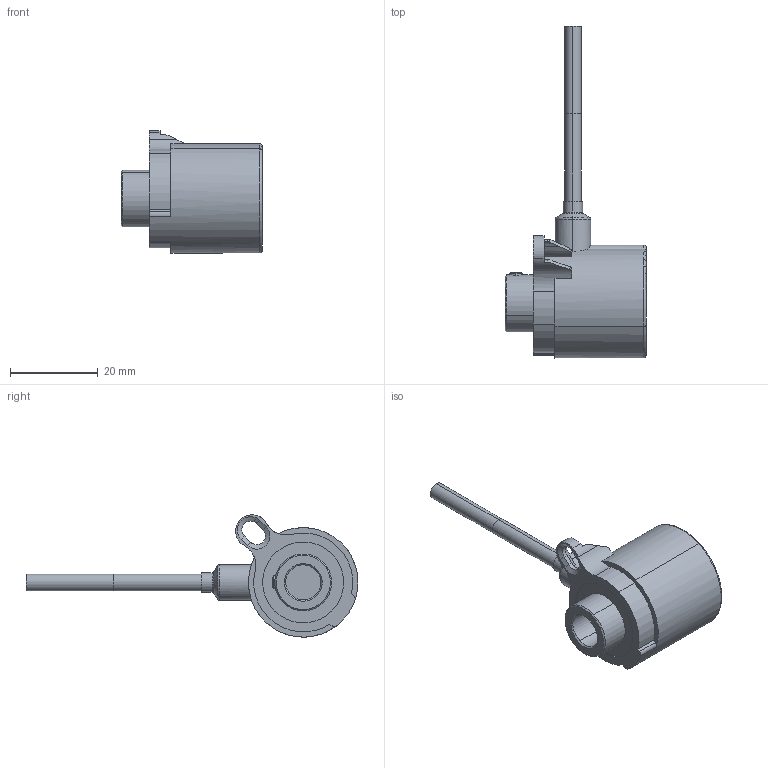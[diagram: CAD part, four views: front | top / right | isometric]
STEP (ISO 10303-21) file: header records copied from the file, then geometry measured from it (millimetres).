
FILE_DESCRIPTION (( 'STEP AP214' ), '1' );
FILE_NAME ('Zusammenstellung_AH25S.STEP', '2014-09-16T11:16:52', ( '' ), ( '' ), 'SwSTEP 2.0', 'SolidWorks 2013', '' );
FILE_SCHEMA (( 'AUTOMOTIVE_DESIGN' ));
Length unit declared in the file: millimetre
Products named in the file (3): SIKO_AH25S_003~0; SIKO_AH25S_001~0; Zusammenstellung_AH25S
Assembly tree (2 placements, depth 2):
  Zusammenstellung_AH25S
    SIKO_AH25S_001~0
    SIKO_AH25S_003~0
Bounding box: 32.4 x 75.8 x 27.9 mm (x, y, z)
Volume: 13609 mm3; surface area: 4492 mm2
Topology: 2 solids, 2 shells, 142 faces, 354 edges, 227 vertices
Faces by surface type: plane 61, cylinder 55, cone 14, torus 8, bspline 4
Entity records: 4678 total; most frequent: CARTESIAN_POINT 1009, DIRECTION 738, ORIENTED_EDGE 708, EDGE_CURVE 354, AXIS2_PLACEMENT_3D 278, VERTEX_POINT 227, VECTOR 182, LINE 182
